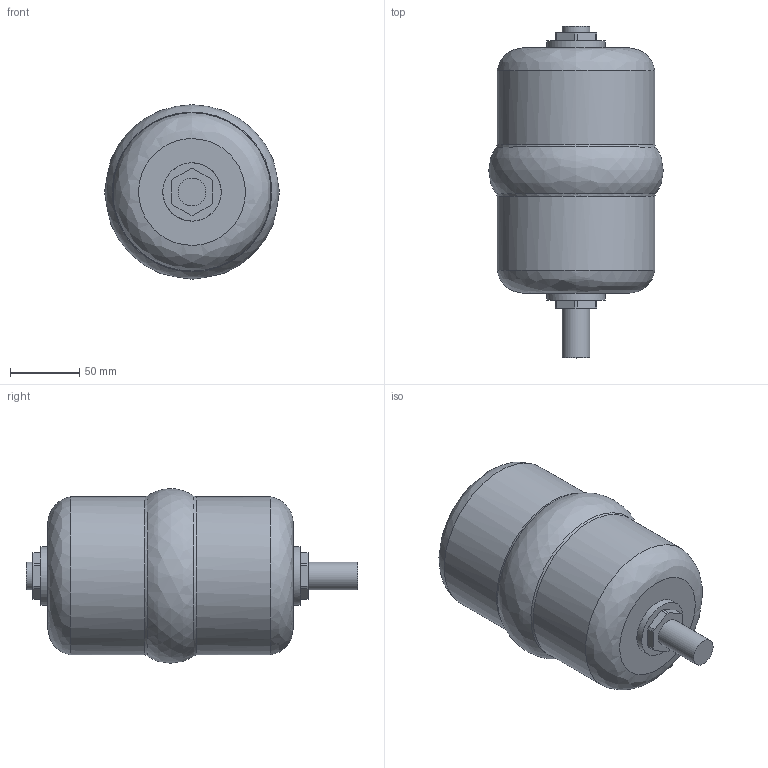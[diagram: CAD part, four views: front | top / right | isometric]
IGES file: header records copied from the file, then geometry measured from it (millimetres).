
Global section: file name: SW4-110mm; native system: Autodesk Inventor 2020; preprocessor: unknown; date: 20210423.112757; units: millimetre
Bounding box: 126 x 239.5 x 125.96 mm (x, y, z)
Volume: 1847537 mm3; surface area: 84731.9 mm2
Topology: 1 solids, 1 shells, 43 faces, 115 edges, 80 vertices
Faces by surface type: bspline 43
